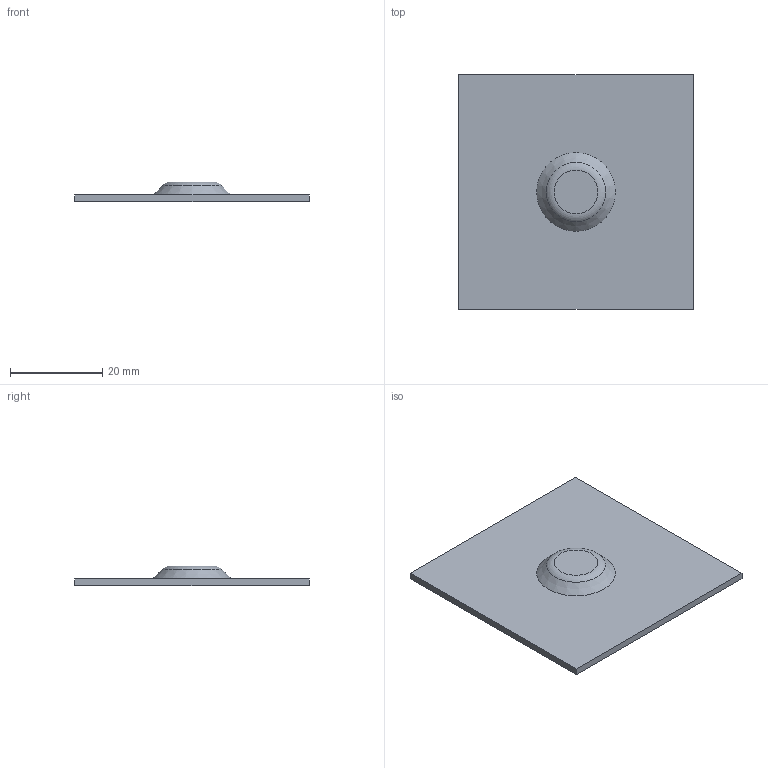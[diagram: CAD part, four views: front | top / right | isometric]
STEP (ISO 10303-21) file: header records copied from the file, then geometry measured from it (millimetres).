
FILE_DESCRIPTION((''),'1');
FILE_NAME('C:/Users/robertnolte/Desktop/WT#774225-70.stp','2012-03-30T01:12:16',(''),(''),'Spatial Interop R21 SP3','Kubotek KeyCreator 2011 V10.5.0 (24766)',' ');
FILE_SCHEMA(('CONFIG_CONTROL_DESIGN'));
Length unit declared in the file: inch
Products named in the file (1): 1
Bounding box: 50.8 x 50.8 x 4.29 mm (x, y, z)
Volume: 3937.7 mm3; surface area: 5559.6 mm2
Topology: 1 solids, 1 shells, 12 faces, 23 edges, 15 vertices
Faces by surface type: plane 8, cone 2, torus 2
Entity records: 320 total; most frequent: DIRECTION 50, CARTESIAN_POINT 45, ORIENTED_EDGE 36, AXIS2_PLACEMENT_3D 19, EDGE_LOOP 18, EDGE_CURVE 18, VERTEX_POINT 14, ADVANCED_FACE 12
